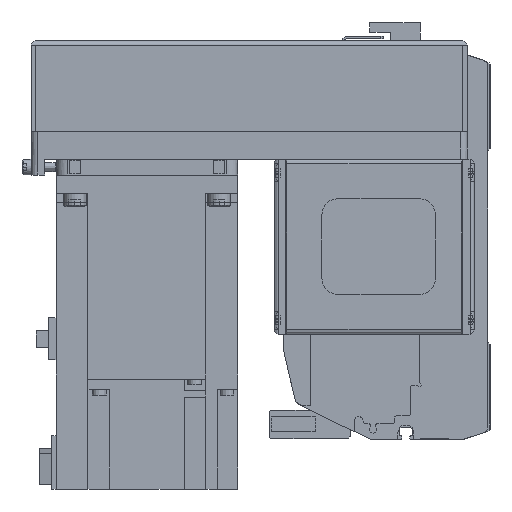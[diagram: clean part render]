
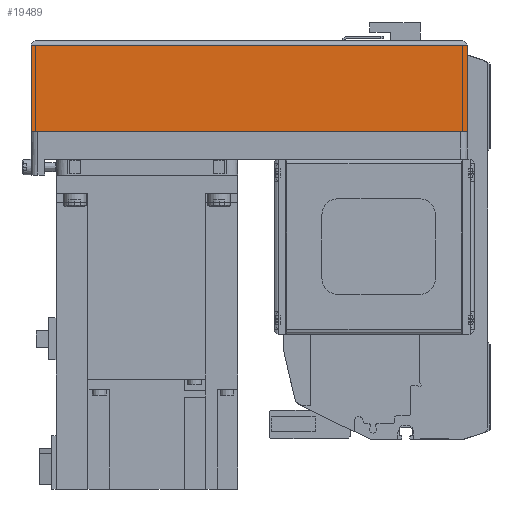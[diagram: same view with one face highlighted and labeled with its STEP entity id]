
A CAD part, left-side view. The second image highlights one B-rep face of the part: STEP entity #19489.
In plain terms, the highlighted planar face has unit normal (-1, 0, 0) as drawn and (0, 1, 0) by its records, which use the part's own axes.
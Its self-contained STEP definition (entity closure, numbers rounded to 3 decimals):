
#3006=ORIENTED_EDGE('',*,*,#7857,.F.);
#3007=ORIENTED_EDGE('',*,*,#7897,.F.);
#3008=ORIENTED_EDGE('',*,*,#7834,.T.);
#3009=ORIENTED_EDGE('',*,*,#7847,.T.);
#7834=EDGE_CURVE('',#10423,#10426,#12426,.T.);
#7847=EDGE_CURVE('',#10426,#10438,#12439,.T.);
#7857=EDGE_CURVE('',#10446,#10438,#12449,.T.);
#7897=EDGE_CURVE('',#10423,#10446,#12467,.T.);
#10423=VERTEX_POINT('',#29886);
#10426=VERTEX_POINT('',#29891);
#10438=VERTEX_POINT('',#29919);
#10446=VERTEX_POINT('',#29939);
#12426=LINE('',#29892,#14142);
#12439=LINE('',#29920,#14155);
#12449=LINE('',#29940,#14165);
#12467=LINE('',#30010,#14183);
#14142=VECTOR('',#23910,1000.);
#14155=VECTOR('',#23929,1000.);
#14165=VECTOR('',#23943,1000.);
#14183=VECTOR('',#24037,1000.);
#15715=EDGE_LOOP('',(#3006,#3007,#3008,#3009));
#17297=FACE_BOUND('',#15715,.T.);
#18712=PLANE('',#20892);
#19489=ADVANCED_FACE('',(#17297),#18712,.T.);
#20892=AXIS2_PLACEMENT_3D('',#30009,#24035,#24036);
#23910=DIRECTION('',(0.,0.,1.));
#23929=DIRECTION('',(1.,0.,0.));
#23943=DIRECTION('',(0.,0.,1.));
#24035=DIRECTION('',(0.,1.,0.));
#24036=DIRECTION('',(0.,0.,1.));
#24037=DIRECTION('',(1.,0.,0.));
#29886=CARTESIAN_POINT('',(-192.,40.,-50.));
#29891=CARTESIAN_POINT('',(-192.,40.,-12.1));
#29892=CARTESIAN_POINT('',(-192.,40.,-50.));
#29919=CARTESIAN_POINT('',(0.,40.,-12.1));
#29920=CARTESIAN_POINT('',(-192.,40.,-12.1));
#29939=CARTESIAN_POINT('',(0.,40.,-50.));
#29940=CARTESIAN_POINT('',(0.,40.,-50.));
#30009=CARTESIAN_POINT('',(-192.,40.,-50.));
#30010=CARTESIAN_POINT('',(-192.,40.,-50.));
